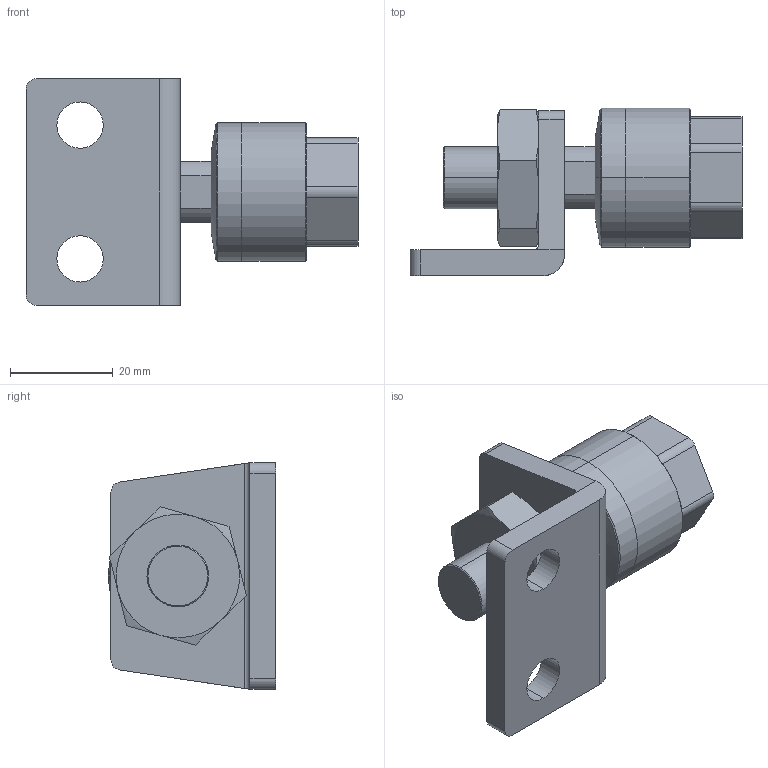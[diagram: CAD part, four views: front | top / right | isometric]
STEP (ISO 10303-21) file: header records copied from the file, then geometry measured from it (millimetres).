
FILE_DESCRIPTION (( 'STEP AP203' ), '1' );
FILE_NAME ('FCM12A-1.5-L.STEP', '2016-04-14T01:55:16', ( '' ), ( '' ), 'SwSTEP 2.0', 'SolidWorks 2014', '' );
FILE_SCHEMA (( 'CONFIG_CONTROL_DESIGN' ));
Length unit declared in the file: millimetre
Products named in the file (4): FCM12A-1.5-L; M12x1.5-8mm(24); FCM12A-1.5; FCM12A-L
Assembly tree (3 placements, depth 2):
  FCM12A-1.5-L
    FCM12A-1.5
    M12x1.5-8mm(24)
    FCM12A-L
Bounding box: 64.5 x 32.5 x 44 mm (x, y, z)
Volume: 30283 mm3; surface area: 12294.1 mm2
Topology: 3 solids, 3 shells, 90 faces, 214 edges, 131 vertices
Faces by surface type: plane 36, cylinder 32, torus 12, cone 10
Entity records: 3072 total; most frequent: CARTESIAN_POINT 565, DIRECTION 460, ORIENTED_EDGE 424, EDGE_CURVE 212, AXIS2_PLACEMENT_3D 178, VERTEX_POINT 131, LINE 104, VECTOR 104
